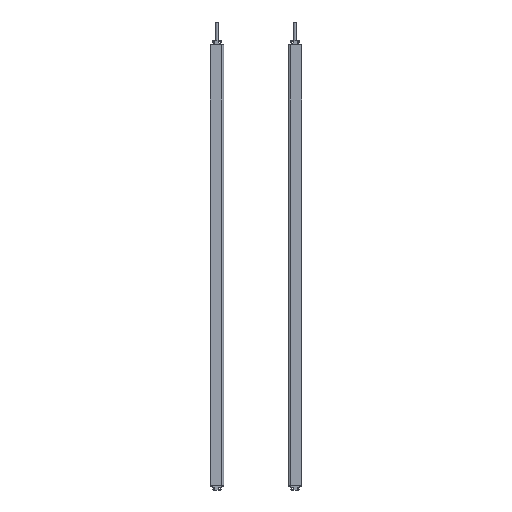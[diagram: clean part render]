
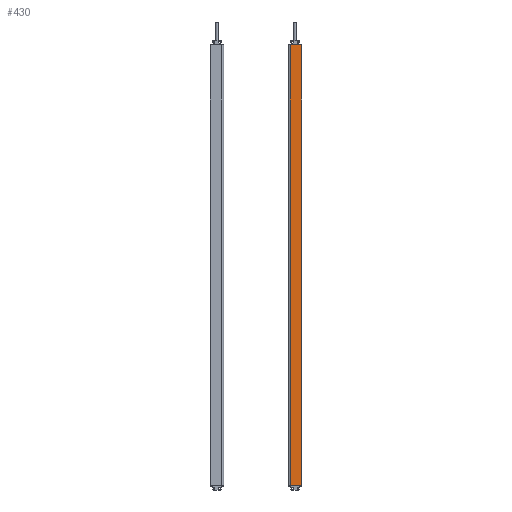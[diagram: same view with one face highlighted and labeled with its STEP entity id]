
A CAD part, front view. The second image highlights one B-rep face of the part: STEP entity #430.
In plain terms, the highlighted planar face has unit normal (0, -1, 0).
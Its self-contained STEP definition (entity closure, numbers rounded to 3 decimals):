
#187=PLANE('',#5933);
#430=ADVANCED_FACE('',(#861),#187,.T.);
#861=FACE_OUTER_BOUND('',#1137,.T.);
#1137=EDGE_LOOP('',(#1844,#1845,#1846,#1847));
#1844=ORIENTED_EDGE('',*,*,#4041,.T.);
#1845=ORIENTED_EDGE('',*,*,#4042,.F.);
#1846=ORIENTED_EDGE('',*,*,#4043,.F.);
#1847=ORIENTED_EDGE('',*,*,#3967,.T.);
#3415=VERTEX_POINT('',#8170);
#3416=VERTEX_POINT('',#8172);
#3485=VERTEX_POINT('',#8317);
#3486=VERTEX_POINT('',#8321);
#3967=EDGE_CURVE('',#3416,#3415,#4790,.T.);
#4041=EDGE_CURVE('',#3415,#3485,#4835,.T.);
#4042=EDGE_CURVE('',#3486,#3485,#4836,.T.);
#4043=EDGE_CURVE('',#3416,#3486,#4837,.T.);
#4790=LINE('',#8171,#5344);
#4835=LINE('',#8318,#5389);
#4836=LINE('',#8320,#5390);
#4837=LINE('',#8322,#5391);
#5344=VECTOR('',#6477,1.);
#5389=VECTOR('',#6586,1.);
#5390=VECTOR('',#6589,1.);
#5391=VECTOR('',#6590,1.);
#5933=AXIS2_PLACEMENT_3D('',#8323,#6591,#6592);
#6477=DIRECTION('',(1.,0.,0.));
#6586=DIRECTION('',(0.,0.,1.));
#6589=DIRECTION('',(1.,0.,0.));
#6590=DIRECTION('',(0.,0.,1.));
#6591=DIRECTION('',(0.,-1.,0.));
#6592=DIRECTION('',(-1.,0.,0.));
#8170=CARTESIAN_POINT('',(3.35,-1.3,-180.));
#8171=CARTESIAN_POINT('',(-4122.897,-1.3,-180.));
#8172=CARTESIAN_POINT('',(-21.15,-1.3,-180.));
#8317=CARTESIAN_POINT('',(3.35,-1.3,782.));
#8318=CARTESIAN_POINT('',(3.35,-1.3,-100.));
#8320=CARTESIAN_POINT('',(-4122.897,-1.3,782.));
#8321=CARTESIAN_POINT('',(-21.15,-1.3,782.));
#8322=CARTESIAN_POINT('',(-21.15,-1.3,-100.));
#8323=CARTESIAN_POINT('',(-21.15,-1.3,-100.));
